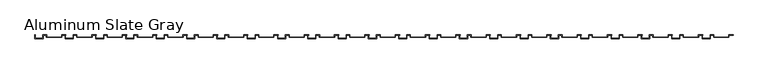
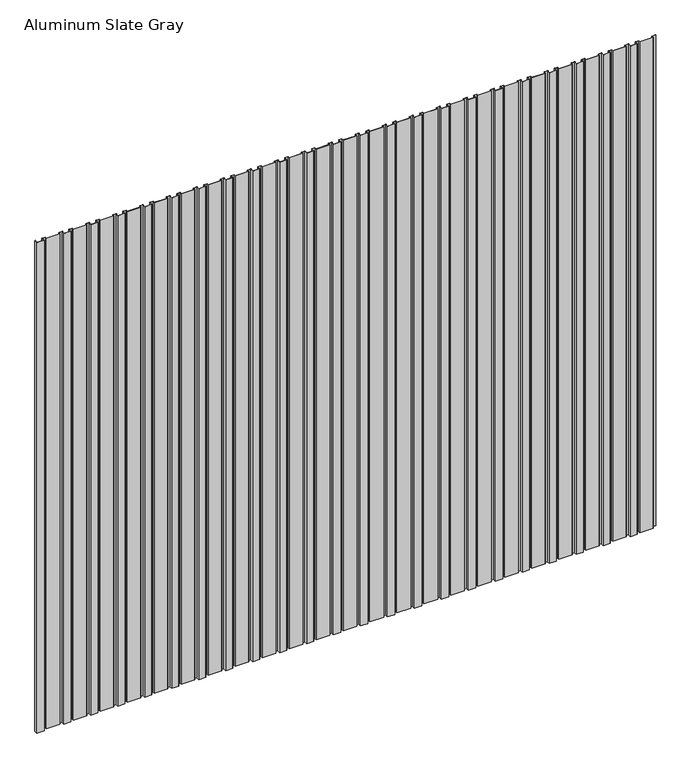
"""IFC4 building model written with IfcOpenShell, lengths in millimetres: proxy geometry, TITANTEK DV 2 VariPanel : Aluminum Slate Gray."""

from ifc_helpers import new_model, si_unit, origin, origin_with_axes, place, context, project, spatial, polyline, outline, extrude, source, transform, mapped, element, save


def aluminum_slate_gray_53ae1bc5(model_context):
    return source(origin(), model_context, "Body", "SweptSolid", [
        extrude(outline(polyline([(4758.928125, -0.9921875), (4758.928125, -15.875), (4654.153125, -15.875), (4654.153125, -0.9921875), (4630.7375, -0.9921875), (4630.7375, -25.4), (4575.175, -25.4), (4575.175, 0.0), (4576.1671875, 0.0), (4576.1671875, -24.4078125), (4629.7453125, -24.4078125), (4629.7453125, 0.0), (4655.1453125, 0.0), (4655.1453125, -14.8828125), (4757.9359375, -14.8828125), (4757.9359375, 0.0), (4787.9, 0.0), (4787.9, -0.9921875), (4758.928125, -0.9921875)])), origin_with_axes(), (0.0, 0.0, 1.0), 4000.0),
        extrude(outline(polyline([(4550.965625, -0.9921875), (4550.965625, -15.875), (4446.190625, -15.875), (4446.190625, -0.9921875), (4422.775, -0.9921875), (4422.775, -25.4), (4367.2125, -25.4), (4367.2125, 0.0), (4368.2046875, 0.0), (4368.2046875, -24.4078125), (4421.7828125, -24.4078125), (4421.7828125, 0.0), (4447.1828125, 0.0), (4447.1828125, -14.8828125), (4549.9734375, -14.8828125), (4549.9734375, 0.0), (4579.9375, 0.0), (4579.9375, -0.9921875), (4550.965625, -0.9921875)])), origin_with_axes(), (0.0, 0.0, 1.0), 4000.0),
        extrude(outline(polyline([(4343.003125, -0.9921875), (4343.003125, -15.875), (4238.228125, -15.875), (4238.228125, -0.9921875), (4214.8125, -0.9921875), (4214.8125, -25.4), (4159.25, -25.4), (4159.25, 0.0), (4160.2421875, 0.0), (4160.2421875, -24.4078125), (4213.8203125, -24.4078125), (4213.8203125, 0.0), (4239.2203125, 0.0), (4239.2203125, -14.8828125), (4342.0109375, -14.8828125), (4342.0109375, 0.0), (4371.975, 0.0), (4371.975, -0.9921875), (4343.003125, -0.9921875)])), origin_with_axes(), (0.0, 0.0, 1.0), 4000.0),
        extrude(outline(polyline([(4135.040625, -0.9921875), (4135.040625, -15.875), (4030.265625, -15.875), (4030.265625, -0.9921875), (4006.85, -0.9921875), (4006.85, -25.4), (3951.2875, -25.4), (3951.2875, 0.0), (3952.2796875, 0.0), (3952.2796875, -24.4078125), (4005.8578125, -24.4078125), (4005.8578125, 0.0), (4031.2578125, 0.0), (4031.2578125, -14.8828125), (4134.0484375, -14.8828125), (4134.0484375, 0.0), (4164.0125, 0.0), (4164.0125, -0.9921875), (4135.040625, -0.9921875)])), origin_with_axes(), (0.0, 0.0, 1.0), 4000.0),
        extrude(outline(polyline([(3927.078125, -0.9921875), (3927.078125, -15.875), (3822.303125, -15.875), (3822.303125, -0.9921875), (3798.8875, -0.9921875), (3798.8875, -25.4), (3743.325, -25.4), (3743.325, 0.0), (3744.3171875, 0.0), (3744.3171875, -24.4078125), (3797.8953125, -24.4078125), (3797.8953125, 0.0), (3823.2953125, 0.0), (3823.2953125, -14.8828125), (3926.0859375, -14.8828125), (3926.0859375, 0.0), (3956.05, 0.0), (3956.05, -0.9921875), (3927.078125, -0.9921875)])), origin_with_axes(), (0.0, 0.0, 1.0), 4000.0),
        extrude(outline(polyline([(3719.115625, -0.9921875), (3719.115625, -15.875), (3614.340625, -15.875), (3614.340625, -0.9921875), (3590.925, -0.9921875), (3590.925, -25.4), (3535.3625, -25.4), (3535.3625, 0.0), (3536.3546875, 0.0), (3536.3546875, -24.4078125), (3589.9328125, -24.4078125), (3589.9328125, 0.0), (3615.3328125, 0.0), (3615.3328125, -14.8828125), (3718.1234375, -14.8828125), (3718.1234375, 0.0), (3748.0875, 0.0), (3748.0875, -0.9921875), (3719.115625, -0.9921875)])), origin_with_axes(), (0.0, 0.0, 1.0), 4000.0),
        extrude(outline(polyline([(3511.153125, -0.9921875), (3511.153125, -15.875), (3406.378125, -15.875), (3406.378125, -0.9921875), (3382.9625, -0.9921875), (3382.9625, -25.4), (3327.4, -25.4), (3327.4, 0.0), (3328.3921875, 0.0), (3328.3921875, -24.4078125), (3381.9703125, -24.4078125), (3381.9703125, 0.0), (3407.3703125, 0.0), (3407.3703125, -14.8828125), (3510.1609375, -14.8828125), (3510.1609375, 0.0), (3540.125, 0.0), (3540.125, -0.9921875), (3511.153125, -0.9921875)])), origin_with_axes(), (0.0, 0.0, 1.0), 4000.0),
        extrude(outline(polyline([(3303.190625, -0.9921875), (3303.190625, -15.875), (3198.415625, -15.875), (3198.415625, -0.9921875), (3175.0, -0.9921875), (3175.0, -25.4), (3119.4375, -25.4), (3119.4375, 0.0), (3120.4296875, 0.0), (3120.4296875, -24.4078125), (3174.0078125, -24.4078125), (3174.0078125, 0.0), (3199.4078125, 0.0), (3199.4078125, -14.8828125), (3302.1984375, -14.8828125), (3302.1984375, 0.0), (3332.1625, 0.0), (3332.1625, -0.9921875), (3303.190625, -0.9921875)])), origin_with_axes(), (0.0, 0.0, 1.0), 4000.0),
        extrude(outline(polyline([(3095.228125, -0.9921875), (3095.228125, -15.875), (2990.453125, -15.875), (2990.453125, -0.9921875), (2967.0375, -0.9921875), (2967.0375, -25.4), (2911.475, -25.4), (2911.475, 0.0), (2912.4671875, 0.0), (2912.4671875, -24.4078125), (2966.0453125, -24.4078125), (2966.0453125, 0.0), (2991.4453125, 0.0), (2991.4453125, -14.8828125), (3094.2359375, -14.8828125), (3094.2359375, 0.0), (3124.2, 0.0), (3124.2, -0.9921875), (3095.228125, -0.9921875)])), origin_with_axes(), (0.0, 0.0, 1.0), 4000.0),
        extrude(outline(polyline([(2887.265625, -0.9921875), (2887.265625, -15.875), (2782.490625, -15.875), (2782.490625, -0.9921875), (2759.075, -0.9921875), (2759.075, -25.4), (2703.5125, -25.4), (2703.5125, 0.0), (2704.5046875, 0.0), (2704.5046875, -24.4078125), (2758.0828125, -24.4078125), (2758.0828125, 0.0), (2783.4828125, 0.0), (2783.4828125, -14.8828125), (2886.2734375, -14.8828125), (2886.2734375, 0.0), (2916.2375, 0.0), (2916.2375, -0.9921875), (2887.265625, -0.9921875)])), origin_with_axes(), (0.0, 0.0, 1.0), 4000.0),
        extrude(outline(polyline([(2679.303125, -0.9921875), (2679.303125, -15.875), (2574.528125, -15.875), (2574.528125, -0.9921875), (2551.1125, -0.9921875), (2551.1125, -25.4), (2495.55, -25.4), (2495.55, 0.0), (2496.5421875, 0.0), (2496.5421875, -24.4078125), (2550.1203125, -24.4078125), (2550.1203125, 0.0), (2575.5203125, 0.0), (2575.5203125, -14.8828125), (2678.3109375, -14.8828125), (2678.3109375, 0.0), (2708.275, 0.0), (2708.275, -0.9921875), (2679.303125, -0.9921875)])), origin_with_axes(), (0.0, 0.0, 1.0), 4000.0),
        extrude(outline(polyline([(2471.340625, -0.9921875), (2471.340625, -15.875), (2366.565625, -15.875), (2366.565625, -0.9921875), (2343.15, -0.9921875), (2343.15, -25.4), (2287.5875, -25.4), (2287.5875, 0.0), (2288.5796875, 0.0), (2288.5796875, -24.4078125), (2342.1578125, -24.4078125), (2342.1578125, 0.0), (2367.5578125, 0.0), (2367.5578125, -14.8828125), (2470.3484375, -14.8828125), (2470.3484375, 0.0), (2500.3125, 0.0), (2500.3125, -0.9921875), (2471.340625, -0.9921875)])), origin_with_axes(), (0.0, 0.0, 1.0), 4000.0),
        extrude(outline(polyline([(2263.378125, -0.9921875), (2263.378125, -15.875), (2158.603125, -15.875), (2158.603125, -0.9921875), (2135.1875, -0.9921875), (2135.1875, -25.4), (2079.625, -25.4), (2079.625, 0.0), (2080.6171875, 0.0), (2080.6171875, -24.4078125), (2134.1953125, -24.4078125), (2134.1953125, 0.0), (2159.5953125, 0.0), (2159.5953125, -14.8828125), (2262.3859375, -14.8828125), (2262.3859375, 0.0), (2292.35, 0.0), (2292.35, -0.9921875), (2263.378125, -0.9921875)])), origin_with_axes(), (0.0, 0.0, 1.0), 4000.0),
        extrude(outline(polyline([(2055.415625, -0.9921875), (2055.415625, -15.875), (1950.640625, -15.875), (1950.640625, -0.9921875), (1927.225, -0.9921875), (1927.225, -25.4), (1871.6625, -25.4), (1871.6625, 0.0), (1872.6546875, 0.0), (1872.6546875, -24.4078125), (1926.2328125, -24.4078125), (1926.2328125, 0.0), (1951.6328125, 0.0), (1951.6328125, -14.8828125), (2054.4234375, -14.8828125), (2054.4234375, 0.0), (2084.3875, 0.0), (2084.3875, -0.9921875), (2055.415625, -0.9921875)])), origin_with_axes(), (0.0, 0.0, 1.0), 4000.0),
        extrude(outline(polyline([(1847.453125, -0.9921875), (1847.453125, -15.875), (1742.678125, -15.875), (1742.678125, -0.9921875), (1719.2625, -0.9921875), (1719.2625, -25.4), (1663.7, -25.4), (1663.7, 0.0), (1664.6921875, 0.0), (1664.6921875, -24.4078125), (1718.2703125, -24.4078125), (1718.2703125, 0.0), (1743.6703125, 0.0), (1743.6703125, -14.8828125), (1846.4609375, -14.8828125), (1846.4609375, 0.0), (1876.425, 0.0), (1876.425, -0.9921875), (1847.453125, -0.9921875)])), origin_with_axes(), (0.0, 0.0, 1.0), 4000.0),
        extrude(outline(polyline([(1639.490625, -0.9921875), (1639.490625, -15.875), (1534.715625, -15.875), (1534.715625, -0.9921875), (1511.3, -0.9921875), (1511.3, -25.4), (1455.7375, -25.4), (1455.7375, 0.0), (1456.7296875, 0.0), (1456.7296875, -24.4078125), (1510.3078125, -24.4078125), (1510.3078125, 0.0), (1535.7078125, 0.0), (1535.7078125, -14.8828125), (1638.4984375, -14.8828125), (1638.4984375, 0.0), (1668.4625, 0.0), (1668.4625, -0.9921875), (1639.490625, -0.9921875)])), origin_with_axes(), (0.0, 0.0, 1.0), 4000.0),
        extrude(outline(polyline([(1431.528125, -0.9921875), (1431.528125, -15.875), (1326.753125, -15.875), (1326.753125, -0.9921875), (1303.3375, -0.9921875), (1303.3375, -25.4), (1247.775, -25.4), (1247.775, 0.0), (1248.7671875, 0.0), (1248.7671875, -24.4078125), (1302.3453125, -24.4078125), (1302.3453125, 0.0), (1327.7453125, 0.0), (1327.7453125, -14.8828125), (1430.5359375, -14.8828125), (1430.5359375, 0.0), (1460.5, 0.0), (1460.5, -0.9921875), (1431.528125, -0.9921875)])), origin_with_axes(), (0.0, 0.0, 1.0), 4000.0),
        extrude(outline(polyline([(1223.565625, -0.9921875), (1223.565625, -15.875), (1118.790625, -15.875), (1118.790625, -0.9921875), (1095.375, -0.9921875), (1095.375, -25.4), (1039.8125, -25.4), (1039.8125, 0.0), (1040.8046875, 0.0), (1040.8046875, -24.4078125), (1094.3828125, -24.4078125), (1094.3828125, 0.0), (1119.7828125, 0.0), (1119.7828125, -14.8828125), (1222.5734375, -14.8828125), (1222.5734375, 0.0), (1252.5375, 0.0), (1252.5375, -0.9921875), (1223.565625, -0.9921875)])), origin_with_axes(), (0.0, 0.0, 1.0), 4000.0),
        extrude(outline(polyline([(1015.603125, -0.9921875), (1015.603125, -15.875), (910.828125, -15.875), (910.828125, -0.9921875), (887.4125, -0.9921875), (887.4125, -25.4), (831.85, -25.4), (831.85, 0.0), (832.8421875, 0.0), (832.8421875, -24.4078125), (886.4203125, -24.4078125), (886.4203125, 0.0), (911.8203125, 0.0), (911.8203125, -14.8828125), (1014.6109375, -14.8828125), (1014.6109375, 0.0), (1044.575, 0.0), (1044.575, -0.9921875), (1015.603125, -0.9921875)])), origin_with_axes(), (0.0, 0.0, 1.0), 4000.0),
        extrude(outline(polyline([(807.640625, -0.9921875), (807.640625, -15.875), (702.865625, -15.875), (702.865625, -0.9921875), (679.45, -0.9921875), (679.45, -25.4), (623.8875, -25.4), (623.8875, 0.0), (624.8796875, 0.0), (624.8796875, -24.4078125), (678.4578125, -24.4078125), (678.4578125, 0.0), (703.8578125, 0.0), (703.8578125, -14.8828125), (806.6484375, -14.8828125), (806.6484375, 0.0), (836.6125, 0.0), (836.6125, -0.9921875), (807.640625, -0.9921875)])), origin_with_axes(), (0.0, 0.0, 1.0), 4000.0),
        extrude(outline(polyline([(599.678125, -0.9921875), (599.678125, -15.875), (494.903125, -15.875), (494.903125, -0.9921875), (471.4875, -0.9921875), (471.4875, -25.4), (415.925, -25.4), (415.925, 0.0), (416.9171875, 0.0), (416.9171875, -24.4078125), (470.4953125, -24.4078125), (470.4953125, 0.0), (495.8953125, 0.0), (495.8953125, -14.8828125), (598.6859375, -14.8828125), (598.6859375, 0.0), (628.65, 0.0), (628.65, -0.9921875), (599.678125, -0.9921875)])), origin_with_axes(), (0.0, 0.0, 1.0), 4000.0),
        extrude(outline(polyline([(391.715625, -0.9921875), (391.715625, -15.875), (286.940625, -15.875), (286.940625, -0.9921875), (263.525, -0.9921875), (263.525, -25.4), (207.9625, -25.4), (207.9625, 0.0), (208.9546875, 0.0), (208.9546875, -24.4078125), (262.5328125, -24.4078125), (262.5328125, 0.0), (287.9328125, 0.0), (287.9328125, -14.8828125), (390.7234375, -14.8828125), (390.7234375, 0.0), (420.6875, 0.0), (420.6875, -0.9921875), (391.715625, -0.9921875)])), origin_with_axes(), (0.0, 0.0, 1.0), 4000.0),
        extrude(outline(polyline([(183.753125, -0.9921875), (183.753125, -15.875), (78.978125, -15.875), (78.978125, -0.9921875), (55.5625, -0.9921875), (55.5625, -25.4), (0.0, -25.4), (0.0, 0.0), (0.9921875, 0.0), (0.9921875, -24.4078125), (54.5703125, -24.4078125), (54.5703125, 0.0), (79.9703125, 0.0), (79.9703125, -14.8828125), (182.7609375, -14.8828125), (182.7609375, 0.0), (212.725, 0.0), (212.725, -0.9921875), (183.753125, -0.9921875)])), origin_with_axes(), (0.0, 0.0, 1.0), 4000.0),
    ])


if __name__ == "__main__":
    model = new_model("IFC4")
    model_context = context("Model", 3, world=origin())
    ifc_project = project(units=[si_unit("LENGTHUNIT", "METRE", prefix="MILLI")], contexts=[model_context])
    site = spatial("IfcSite", under=ifc_project)
    building = spatial("IfcBuilding", under=site)
    placement = place(None, origin())
    aluminum_slate_gray_shape = aluminum_slate_gray_53ae1bc5(model_context)
    element("IfcBuildingElementProxy", 1, Name="TITANTEK DV 2 VariPanel : Aluminum Slate Gray", ObjectType="TITANTEK DV 2 VariPanel : Aluminum Slate Gray", at=placement, inside=building, context=model_context, shape_type="MappedRepresentation", body=[
        mapped(aluminum_slate_gray_shape, transform((0.0, 0.0, 0.0), x_axis=(1.0, 0.0, 0.0), y_axis=(0.0, 1.0, 0.0), z_axis=(0.0, 0.0, 1.0))),
    ])
    save(model, "model.ifc")
